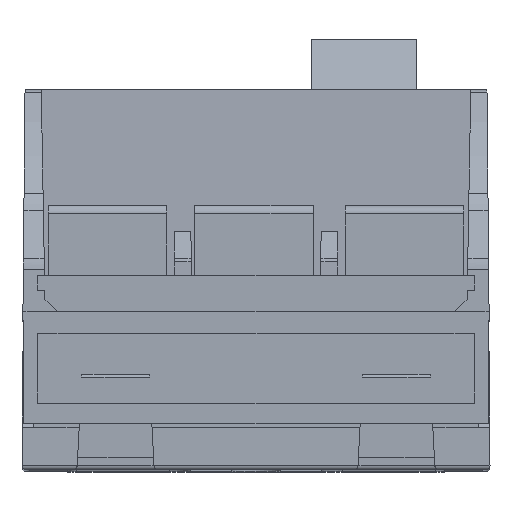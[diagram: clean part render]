
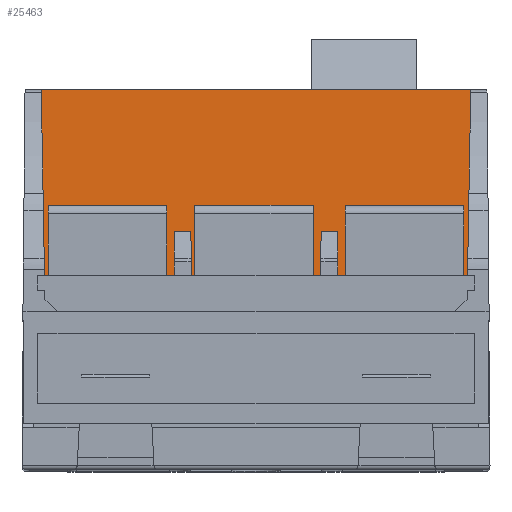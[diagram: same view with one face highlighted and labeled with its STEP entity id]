
A CAD part, top view. The second image highlights one B-rep face of the part: STEP entity #25463.
In plain terms, the highlighted planar face has unit normal (0, 0.018, 1).
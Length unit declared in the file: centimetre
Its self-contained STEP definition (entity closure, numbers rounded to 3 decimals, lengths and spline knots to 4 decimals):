
#652=LINE('',#36708,#3046);
#656=LINE('',#36716,#3050);
#660=LINE('',#36724,#3054);
#1016=LINE('',#37640,#3410);
#1364=LINE('',#38534,#3758);
#1427=LINE('',#38803,#3821);
#1431=LINE('',#38810,#3825);
#1432=LINE('',#38812,#3826);
#1490=LINE('',#39043,#3884);
#1491=LINE('',#39045,#3885);
#1492=LINE('',#39046,#3886);
#1493=LINE('',#39047,#3887);
#3046=VECTOR('',#29458,1.2465);
#3050=VECTOR('',#29462,1.2443);
#3054=VECTOR('',#29466,1.2465);
#3410=VECTOR('',#30072,1.7927);
#3758=VECTOR('',#30868,4.1301);
#3821=VECTOR('',#31033,0.1577);
#3825=VECTOR('',#31039,0.1577);
#3826=VECTOR('',#31042,0.4223);
#3884=VECTOR('',#31282,0.4223);
#3885=VECTOR('',#31285,1.7927);
#3886=VECTOR('',#31286,0.4223);
#3887=VECTOR('',#31287,0.4223);
#5604=PLANE('',#27133);
#7278=FACE_OUTER_BOUND('',#8759,.T.);
#8759=EDGE_LOOP('',(#18903,#18904,#18905,#18906,#18907,#18908,#18909,#18910,
#18911,#18912,#18913,#18914));
#10896=VERTEX_POINT('',#36705);
#10897=VERTEX_POINT('',#36707);
#10900=VERTEX_POINT('',#36713);
#10901=VERTEX_POINT('',#36715);
#10904=VERTEX_POINT('',#36721);
#10905=VERTEX_POINT('',#36723);
#11258=VERTEX_POINT('',#37639);
#11511=VERTEX_POINT('',#38533);
#11569=VERTEX_POINT('',#38800);
#11570=VERTEX_POINT('',#38802);
#11571=VERTEX_POINT('',#38806);
#11572=VERTEX_POINT('',#38808);
#13319=EDGE_CURVE('',#10897,#10896,#652,.T.);
#13323=EDGE_CURVE('',#10901,#10900,#656,.T.);
#13327=EDGE_CURVE('',#10905,#10904,#660,.T.);
#13762=EDGE_CURVE('',#11258,#10905,#1016,.T.);
#14172=EDGE_CURVE('',#11511,#11258,#1364,.T.);
#14260=EDGE_CURVE('',#11570,#11569,#1427,.T.);
#14264=EDGE_CURVE('',#11571,#11572,#1431,.T.);
#14265=EDGE_CURVE('',#10900,#11570,#1432,.T.);
#14355=EDGE_CURVE('',#11569,#10897,#1490,.T.);
#14356=EDGE_CURVE('',#10896,#11511,#1491,.T.);
#14357=EDGE_CURVE('',#10904,#11571,#1492,.T.);
#14358=EDGE_CURVE('',#11572,#10901,#1493,.T.);
#18903=ORIENTED_EDGE('',*,*,#13319,.T.);
#18904=ORIENTED_EDGE('',*,*,#14356,.T.);
#18905=ORIENTED_EDGE('',*,*,#14172,.T.);
#18906=ORIENTED_EDGE('',*,*,#13762,.T.);
#18907=ORIENTED_EDGE('',*,*,#13327,.T.);
#18908=ORIENTED_EDGE('',*,*,#14357,.T.);
#18909=ORIENTED_EDGE('',*,*,#14264,.T.);
#18910=ORIENTED_EDGE('',*,*,#14358,.T.);
#18911=ORIENTED_EDGE('',*,*,#13323,.T.);
#18912=ORIENTED_EDGE('',*,*,#14265,.T.);
#18913=ORIENTED_EDGE('',*,*,#14260,.T.);
#18914=ORIENTED_EDGE('',*,*,#14355,.T.);
#25463=ADVANCED_FACE('',(#7278),#5604,.F.);
#27133=AXIS2_PLACEMENT_3D('',#39044,#31283,#31284);
#29458=DIRECTION('',(1.,0.,0.));
#29462=DIRECTION('',(1.,0.,0.));
#29466=DIRECTION('',(1.,0.,0.));
#30072=DIRECTION('',(0.017,-1.,0.017));
#30868=DIRECTION('',(-1.,0.,0.));
#31033=DIRECTION('',(1.,0.,0.));
#31039=DIRECTION('',(1.,0.,0.));
#31042=DIRECTION('',(0.009,1.,-0.017));
#31282=DIRECTION('',(0.009,-1.,0.017));
#31283=DIRECTION('center_axis',(0.,-0.017,-1.));
#31284=DIRECTION('ref_axis',(0.,-1.,0.017));
#31285=DIRECTION('',(0.017,1.,-0.017));
#31286=DIRECTION('',(0.009,1.,-0.017));
#31287=DIRECTION('',(0.009,-1.,0.017));
#36705=CARTESIAN_POINT('',(2.0337,1.5778,3.1503));
#36707=CARTESIAN_POINT('',(0.7872,1.5778,3.1503));
#36708=CARTESIAN_POINT('',(0.,1.5778,3.1503));
#36713=CARTESIAN_POINT('',(0.6222,1.5778,3.1503));
#36715=CARTESIAN_POINT('',(-0.6222,1.5778,3.1503));
#36716=CARTESIAN_POINT('',(0.,1.5778,3.1503));
#36721=CARTESIAN_POINT('',(-0.7872,1.5778,3.1503));
#36723=CARTESIAN_POINT('',(-2.0337,1.5778,3.1503));
#36724=CARTESIAN_POINT('',(0.,1.5778,3.1503));
#37639=CARTESIAN_POINT('',(-2.065,3.37,3.119));
#37640=CARTESIAN_POINT('',(-2.0521,2.631,3.1319));
#38533=CARTESIAN_POINT('',(2.065,3.37,3.119));
#38534=CARTESIAN_POINT('',(0.,3.37,3.119));
#38800=CARTESIAN_POINT('',(0.7835,2.,3.1429));
#38802=CARTESIAN_POINT('',(0.6259,2.,3.1429));
#38803=CARTESIAN_POINT('',(0.,2.,3.1429));
#38806=CARTESIAN_POINT('',(-0.7835,2.,3.1429));
#38808=CARTESIAN_POINT('',(-0.6259,2.,3.1429));
#38810=CARTESIAN_POINT('',(0.,2.,3.1429));
#38812=CARTESIAN_POINT('',(0.6314,2.6314,3.1319));
#39043=CARTESIAN_POINT('',(0.7778,2.6537,3.1315));
#39044=CARTESIAN_POINT('Origin',(0.,4.1998,3.1045));
#39045=CARTESIAN_POINT('',(2.0519,2.6172,3.1321));
#39046=CARTESIAN_POINT('',(-0.778,2.6375,3.1318));
#39047=CARTESIAN_POINT('',(-0.6315,2.6475,3.1316));
